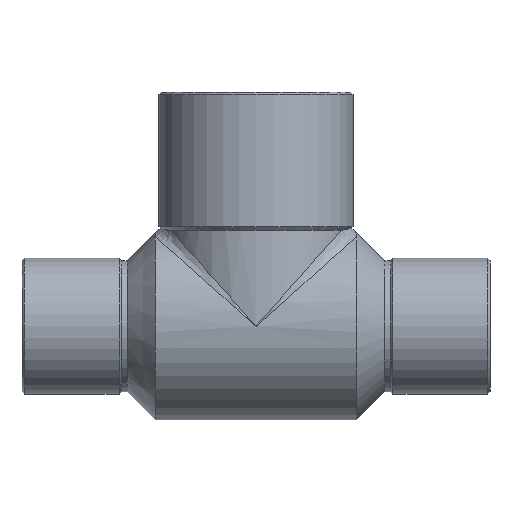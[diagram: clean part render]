
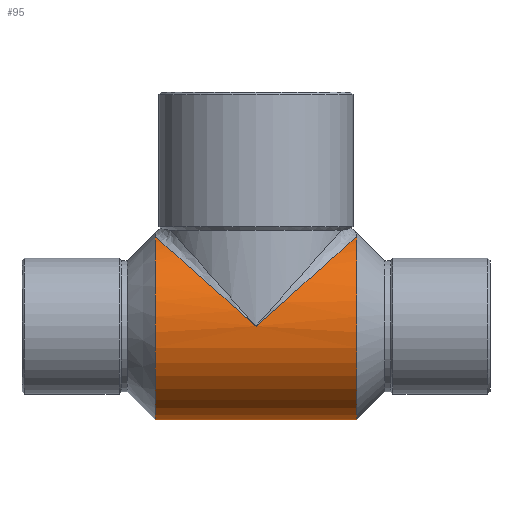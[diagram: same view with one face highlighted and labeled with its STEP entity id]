
A CAD part, top view. The second image highlights one B-rep face of the part: STEP entity #95.
In plain terms, the highlighted cylindrical face has radius 8 mm (diameter 16 mm), a partial arc.
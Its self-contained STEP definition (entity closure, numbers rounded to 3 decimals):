
#44=CARTESIAN_POINT('',(0.0,0.,0.0));
#45=DIRECTION('',(1.0,0.,0.0));
#46=DIRECTION('',(0.0,1.0,0.0));
#47=AXIS2_PLACEMENT_3D('',#44,#45,#46);
#48=CYLINDRICAL_SURFACE('',#47,8.);
#49=CARTESIAN_POINT('',(8.6,-8.,0.));
#50=VERTEX_POINT('',#49);
#51=CARTESIAN_POINT('',(-8.6,-8.,0.));
#52=VERTEX_POINT('',#51);
#53=CARTESIAN_POINT('',(8.6,-8.,0.));
#54=DIRECTION('',(-1.0,0.0,0.0));
#55=VECTOR('',#54,17.2);
#56=LINE('',#53,#55);
#57=EDGE_CURVE('',#50,#52,#56,.T.);
#58=ORIENTED_EDGE('',*,*,#57,.F.);
#59=CARTESIAN_POINT('',(8.6,7.644,2.358));
#60=VERTEX_POINT('',#59);
#61=CARTESIAN_POINT('',(8.6,0.,0.0));
#62=DIRECTION('',(-1.0,0.0,0.0));
#63=DIRECTION('',(0.0,1.0,0.0));
#64=AXIS2_PLACEMENT_3D('',#61,#62,#63);
#65=CIRCLE('',#64,8.);
#66=EDGE_CURVE('',#50,#60,#65,.T.);
#67=ORIENTED_EDGE('',*,*,#66,.T.);
#68=CARTESIAN_POINT('',(0.,0.,8.));
#69=VERTEX_POINT('',#68);
#70=CARTESIAN_POINT('',(0.,0.,0.0));
#71=DIRECTION('',(-0.664,0.747,0.));
#72=DIRECTION('',(0.747,0.664,0.0));
#73=AXIS2_PLACEMENT_3D('',#70,#71,#72);
#74=ELLIPSE('',#73,12.042,8.);
#75=EDGE_CURVE('',#69,#60,#74,.T.);
#76=ORIENTED_EDGE('',*,*,#75,.F.);
#77=CARTESIAN_POINT('',(-8.6,7.644,2.358));
#78=VERTEX_POINT('',#77);
#79=CARTESIAN_POINT('',(0.,0.,0.0));
#80=DIRECTION('',(0.664,0.747,0.));
#81=DIRECTION('',(-0.747,0.664,0.0));
#82=AXIS2_PLACEMENT_3D('',#79,#80,#81);
#83=ELLIPSE('',#82,12.042,8.);
#84=EDGE_CURVE('',#78,#69,#83,.T.);
#85=ORIENTED_EDGE('',*,*,#84,.F.);
#86=CARTESIAN_POINT('',(-8.6,0.,0.0));
#87=DIRECTION('',(1.0,0.0,0.0));
#88=DIRECTION('',(0.0,1.0,0.0));
#89=AXIS2_PLACEMENT_3D('',#86,#87,#88);
#90=CIRCLE('',#89,8.);
#91=EDGE_CURVE('',#78,#52,#90,.T.);
#92=ORIENTED_EDGE('',*,*,#91,.T.);
#93=EDGE_LOOP('',(#58,#67,#76,#85,#92));
#94=FACE_OUTER_BOUND('',#93,.T.);
#95=ADVANCED_FACE('',(#94),#48,.T.);
